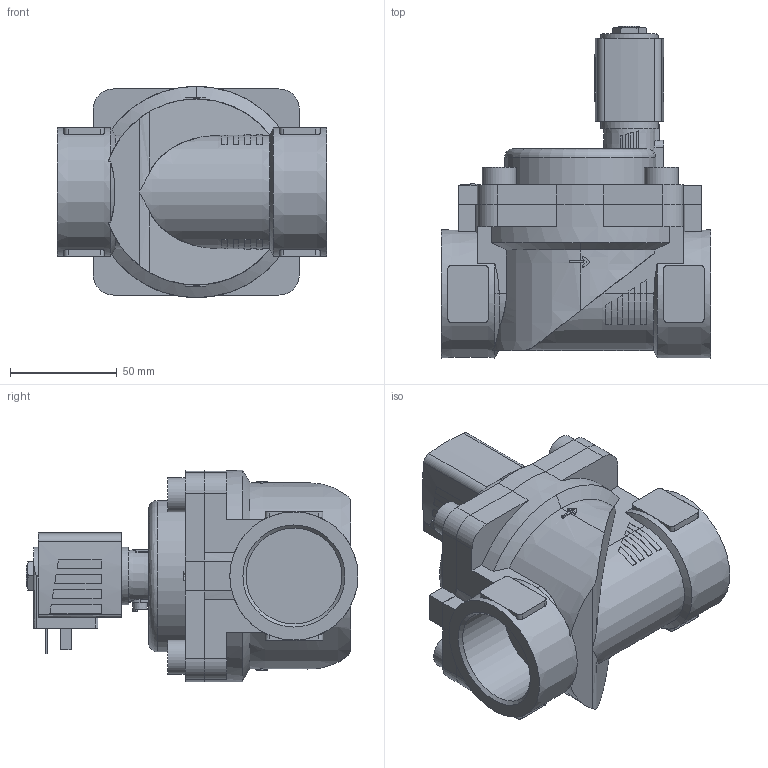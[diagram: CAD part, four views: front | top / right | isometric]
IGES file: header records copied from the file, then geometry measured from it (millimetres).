
Start section: Data from Parasolid IGES Translator 26.0.171, Copyright(c) 2006 Siemens PLM Software. All Rights Reserved.
Global section: file name: 6281-296177-2_2-Way_Solenoid_Valve__Servo-assisted__General_Purpose.igs; native system: By Siemens PLM Incorporated; preprocessor: XPlus GENERIC/IGES 26.0.171; author: Noname; organization: Noname; date: 20240904.133738; units: millimetre
Bounding box: 126 x 155.5 x 99 mm (x, y, z)
Surface area: 93220.6 mm2 (no closed solid volume)
Topology: 0 solids, 0 shells, 382 faces, 2034 edges, 2027 vertices
Faces by surface type: extrusion 249, revolution 133
